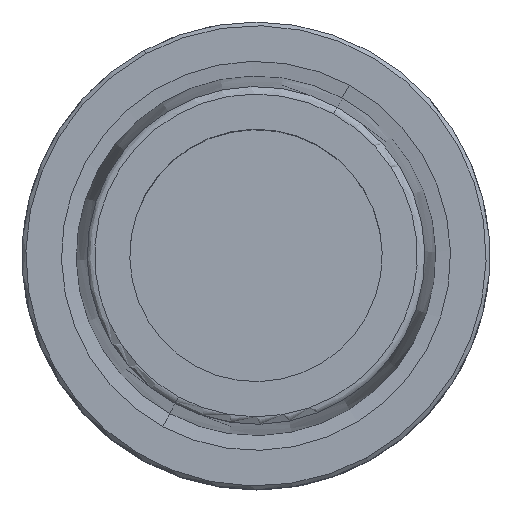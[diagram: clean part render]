
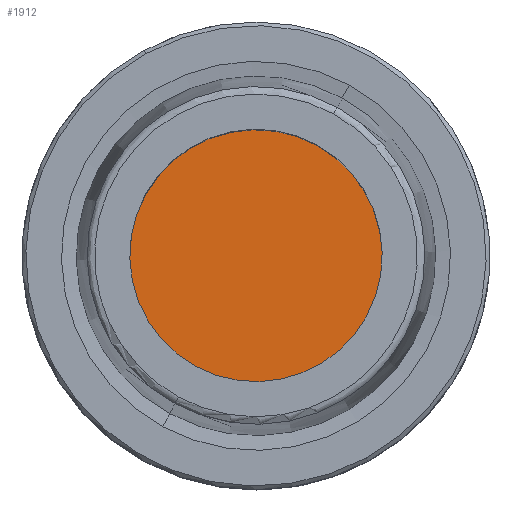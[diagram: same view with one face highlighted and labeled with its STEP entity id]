
A CAD part, top view. The second image highlights one B-rep face of the part: STEP entity #1912.
In plain terms, the highlighted planar face has unit normal (0, 0, 1).
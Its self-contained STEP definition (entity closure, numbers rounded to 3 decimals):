
#1892=AXIS2_PLACEMENT_3D('Plane Axis2P3D',#1889,#1890,#1891) ;
#1896=AXIS2_PLACEMENT_3D('Circle Axis2P3D',#1894,#1895,$) ;
#1905=AXIS2_PLACEMENT_3D('Circle Axis2P3D',#1903,#1904,$) ;
#1889=CARTESIAN_POINT('Axis2P3D Location',(0.,0.,-10.)) ;
#1894=CARTESIAN_POINT('Axis2P3D Location',(0.,0.,-10.)) ;
#1898=CARTESIAN_POINT('Vertex',(8.15,14.919,-10.)) ;
#1900=CARTESIAN_POINT('Vertex',(-8.15,-14.919,-10.)) ;
#1903=CARTESIAN_POINT('Axis2P3D Location',(0.,0.,-10.)) ;
#1890=DIRECTION('Axis2P3D Direction',(0.,0.,1.)) ;
#1891=DIRECTION('Axis2P3D XDirection',(1.,0.,0.)) ;
#1895=DIRECTION('Axis2P3D Direction',(0.,0.,1.)) ;
#1904=DIRECTION('Axis2P3D Direction',(0.,0.,1.)) ;
#1909=ORIENTED_EDGE('',*,*,#1902,.T.) ;
#1910=ORIENTED_EDGE('',*,*,#1907,.T.) ;
#1912=ADVANCED_FACE('NOCUT',(#1911),#1893,.T.) ;
#1897=CIRCLE('generated circle',#1896,17.) ;
#1906=CIRCLE('generated circle',#1905,17.) ;
#1902=EDGE_CURVE('',#1899,#1901,#1897,.T.) ;
#1907=EDGE_CURVE('',#1901,#1899,#1906,.T.) ;
#1908=EDGE_LOOP('',(#1909,#1910)) ;
#1911=FACE_OUTER_BOUND('',#1908,.T.) ;
#1893=PLANE('',#1892) ;
#1899=VERTEX_POINT('',#1898) ;
#1901=VERTEX_POINT('',#1900) ;
